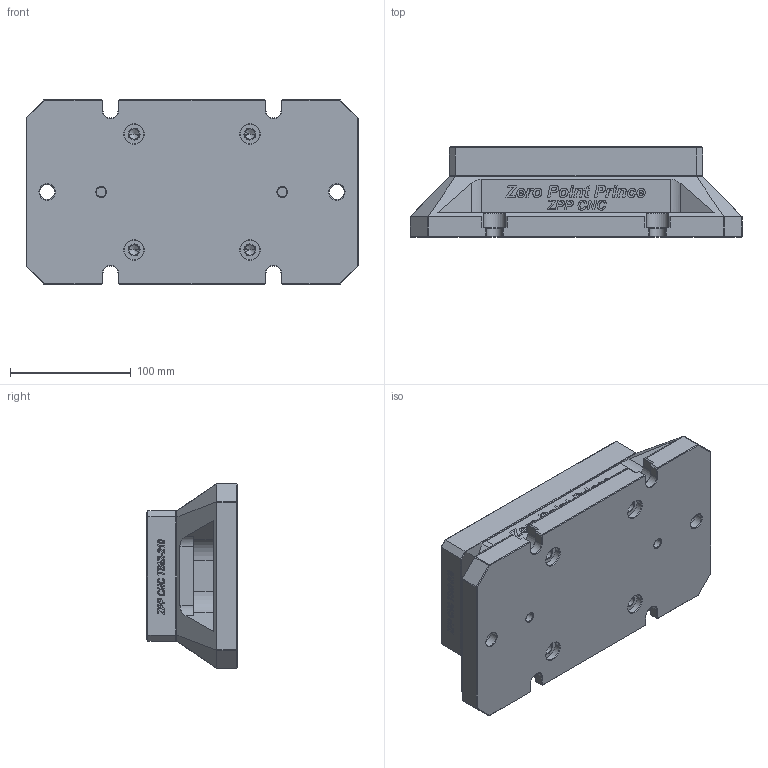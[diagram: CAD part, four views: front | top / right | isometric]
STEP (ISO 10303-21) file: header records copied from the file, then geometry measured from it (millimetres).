
FILE_DESCRIPTION((''),'2;1');
FILE_NAME('TS52-210BS_ASM','2025-10-14T14:08:30',('XF'),(''),'CREO PARAMETRIC BY PTC INC, 2023073','CREO PARAMETRIC BY PTC INC, 2023073','');
FILE_SCHEMA(('CONFIG_CONTROL_DESIGN'));
Products named in the file (3): TS52-210DZ; TS52-210; TS52-210BS_ASM
Assembly tree (2 placements, depth 2):
  TS52-210BS_ASM
    TS52-210DZ
    TS52-210
Bounding box: 275 x 75 x 153.01 mm (x, y, z)
Volume: 2053155.5 mm3; surface area: 208563.7 mm2
Topology: 48 solids, 60 shells, 1930 faces, 5292 edges, 3517 vertices
Faces by surface type: plane 772, extrusion 766, cylinder 206, cone 166, torus 16, bspline 4
Entity records: 64204 total; most frequent: CARTESIAN_POINT 17602, ORIENTED_EDGE 10448, DIRECTION 7547, EDGE_CURVE 5248, VECTOR 3629, VERTEX_POINT 3517, LINE 2863, B_SPLINE_CURVE_WITH_KNOTS 2361
